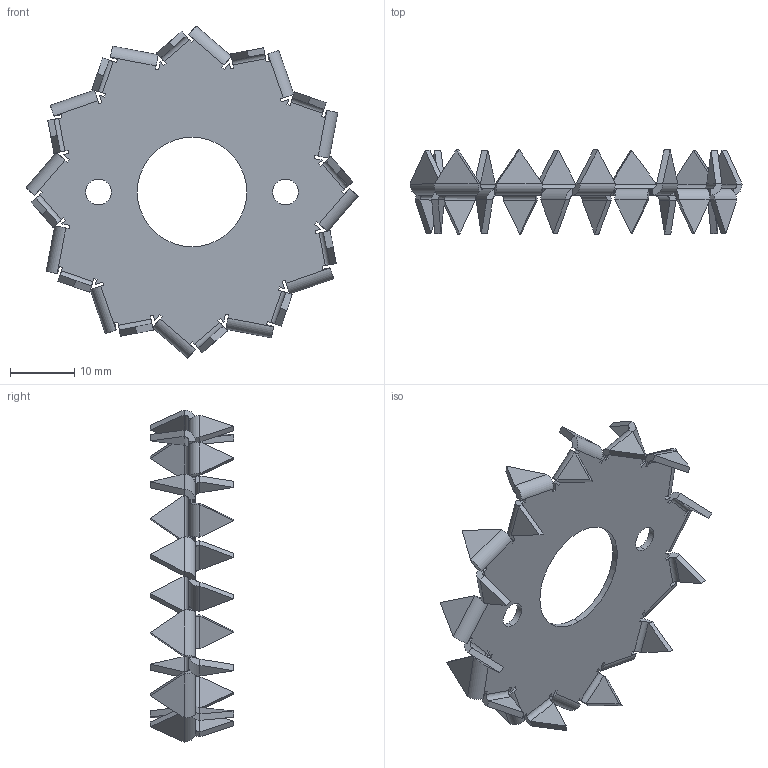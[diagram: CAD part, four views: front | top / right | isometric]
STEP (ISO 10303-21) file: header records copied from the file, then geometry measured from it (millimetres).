
FILE_DESCRIPTION (( 'STEP AP203' ), '1' );
FILE_NAME ('D48.STEP', '2020-05-22T09:49:55', ( '' ), ( '' ), 'SwSTEP 2.0', 'SolidWorks 2013', '' );
FILE_SCHEMA (( 'CONFIG_CONTROL_DESIGN' ));
Length unit declared in the file: millimetre
Products named in the file (1): D48
Bounding box: 51.51 x 13 x 51.51 mm (x, y, z)
Volume: 1922.9 mm3; surface area: 4385.9 mm2
Topology: 1 solids, 1 shells, 320 faces, 762 edges, 444 vertices
Faces by surface type: plane 266, cylinder 54
Entity records: 8987 total; most frequent: CARTESIAN_POINT 1527, ORIENTED_EDGE 1524, DIRECTION 1512, EDGE_CURVE 762, LINE 654, VECTOR 654, VERTEX_POINT 444, AXIS2_PLACEMENT_3D 429
